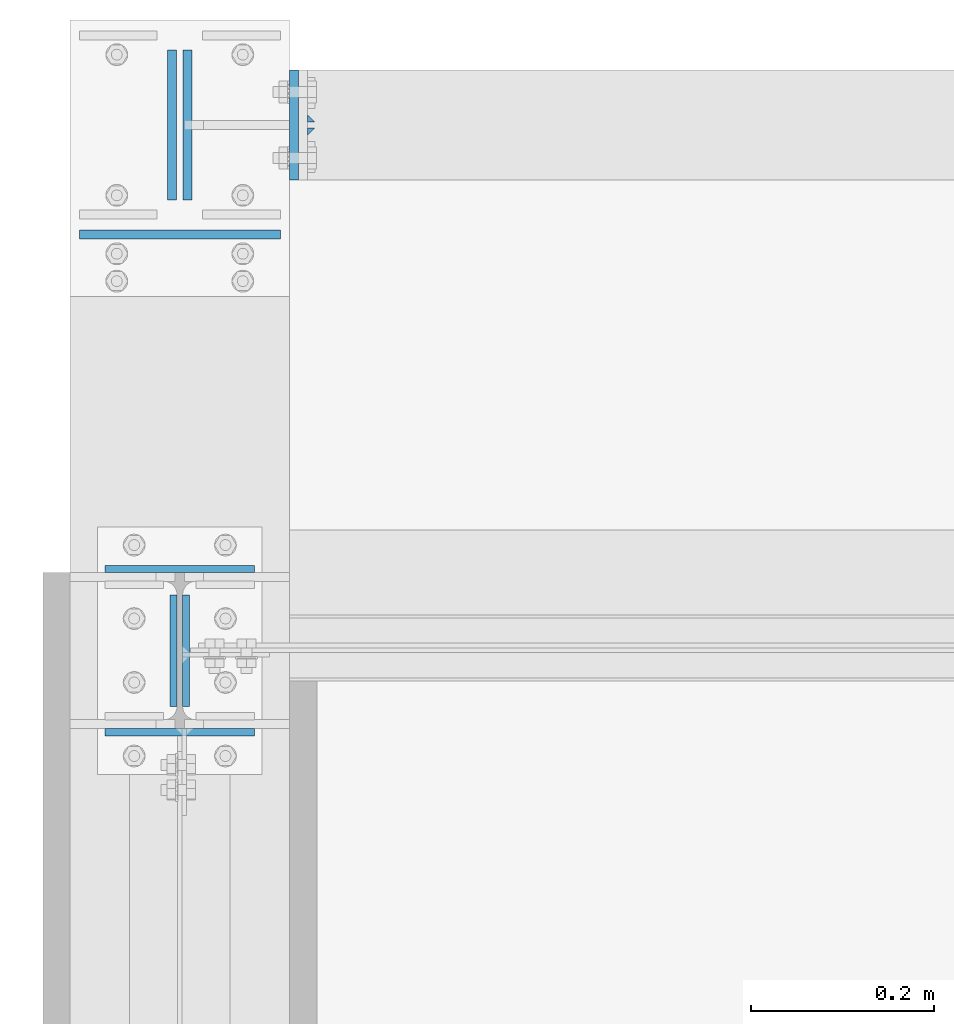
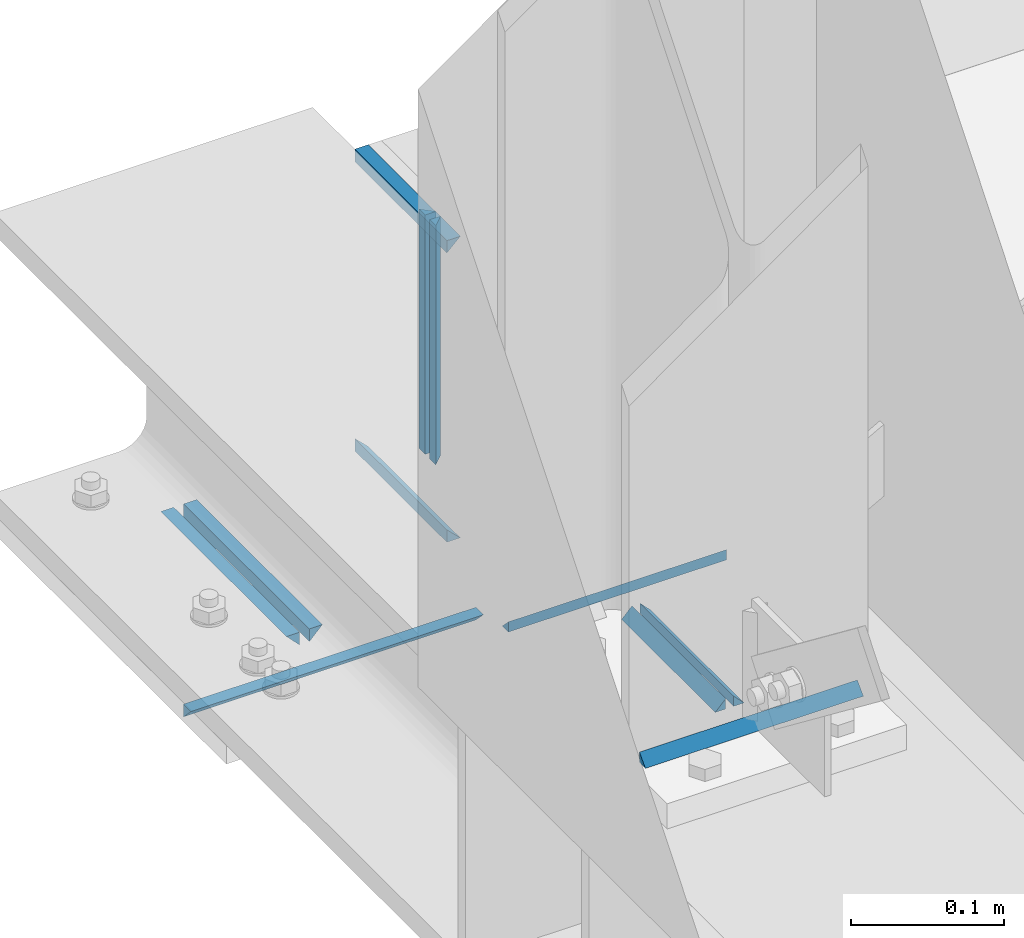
# One storey, part 16 of 66: 20 fasteners.
"""IFC4 building model written with IfcOpenShell, lengths in metres."""

from ifc_helpers import new_model, si_unit, frame, origin_with_axes, place, context, project, spatial, polyline, outline, extrude, type_object, element, save


model = new_model("IFC4")

# Units and contexts
model_context = context("Model", 3, precision=1e-05, world=origin_with_axes())
ifc_project = project(units=[si_unit("LENGTHUNIT", "METRE"), si_unit("AREAUNIT", "SQUARE_METRE"), si_unit("VOLUMEUNIT", "CUBIC_METRE"), si_unit("MASSUNIT", "GRAM", prefix="KILO"), si_unit("TIMEUNIT", "SECOND"), si_unit("PLANEANGLEUNIT", "RADIAN"), si_unit("SOLIDANGLEUNIT", "STERADIAN"), si_unit("THERMODYNAMICTEMPERATUREUNIT", "DEGREE_CELSIUS")], contexts=[model_context])

# Site, building, storey
placement_1 = place(None, origin_with_axes())
site = spatial("IfcSite", under=ifc_project, at=placement_1, Name="Italia", CompositionType="ELEMENT")
building = spatial("IfcBuilding", under=site, at=placement_1, Name="Uffici", CompositionType="ELEMENT")
storey_placement = place(None, frame((0.0, 0.0, 3.299999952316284), z_axis=(0.0, 0.0, 1.0), x_axis=(1.0, 0.0, 0.0)))
storey = spatial("IfcBuildingStorey", under=building, at=storey_placement, Name="Storey 1", CompositionType="ELEMENT", Elevation=3.299999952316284)

# Fasteners
fastener_type_1 = type_object("IfcFastenerType", Name="Collegamento 0106_0206", PredefinedType="WELD")
placement_2 = place(placement_1, origin_with_axes())
fastener_1_placement = place(placement_2, origin_with_axes())
element("IfcFastener", 1, at=fastener_1_placement, inside=storey, type_object=fastener_type_1, Name="Collegamento 0106_0206", context=model_context, shape_type="SweptSolid", body=[
    extrude(outline(polyline([(0.0, 0.0), (0.00792837, 0.00817347), (0.00792837, 0.0), (0.0, 0.0)])), frame((0.08205, 4.90788, 3.31995), z_axis=(-1.0, 0.0, 0.0), x_axis=(0.0, -1.0, 0.0)), (0.0, 0.0, 1.0), 0.1641),
])
fastener_type_2 = type_object("IfcFastenerType", Name="Collegamento 0106_0206", PredefinedType="WELD")
fastener_2_placement = place(placement_2, origin_with_axes())
element("IfcFastener", 2, at=fastener_2_placement, inside=storey, type_object=fastener_type_2, Name="Collegamento 0106_0206", context=model_context, shape_type="SweptSolid", body=[
    extrude(outline(polyline([(0.0, 0.0), (0.00792837, 0.00817347), (0.00792837, 0.0), (0.0, 0.0)])), frame((-0.08205, 4.72112, 3.31995), z_axis=(1.0, 0.0, 0.0), x_axis=(0.0, 1.0, 0.0)), (0.0, 0.0, 1.0), 0.1641),
])
fastener_type_3 = type_object("IfcFastenerType", Name="Collegamento 0106_0206", PredefinedType="WELD")
fastener_3_placement = place(placement_2, origin_with_axes())
element("IfcFastener", 3, at=fastener_3_placement, inside=storey, type_object=fastener_type_3, Name="Collegamento 0106_0206", context=model_context, shape_type="SweptSolid", body=[
    extrude(outline(polyline([(0.0, 0.0), (0.00792816, 0.00817347), (0.00792816, 0.0), (0.0, 0.0)])), frame((0.0108782, 4.75345, 3.31995), z_axis=(-1.5254976e-08, 1.0, 0.0), x_axis=(-1.0, -1.5254976e-08, 0.0)), (0.0, 0.0, 1.0), 0.122101),
])
fastener_type_4 = type_object("IfcFastenerType", Name="Collegamento 0106_0206", PredefinedType="WELD")
fastener_4_placement = place(placement_2, origin_with_axes())
element("IfcFastener", 4, at=fastener_4_placement, inside=storey, type_object=fastener_type_4, Name="Collegamento 0106_0206", context=model_context, shape_type="SweptSolid", body=[
    extrude(outline(polyline([(0.0, 0.0), (0.00792816, 0.00817347), (0.00792816, 0.0), (0.0, 0.0)])), frame((-0.0108782, 4.87555, 3.31995), z_axis=(1.5254976e-08, -1.0, 0.0), x_axis=(1.0, 1.5254976e-08, 0.0)), (0.0, 0.0, 1.0), 0.122101),
])
fastener_type_5 = type_object("IfcFastenerType", Name="Collegamento 0106_0206", PredefinedType="WELD")
fastener_5_placement = place(placement_2, origin_with_axes())
element("IfcFastener", 5, at=fastener_5_placement, inside=storey, type_object=fastener_type_5, Name="Collegamento 0106_0206", context=model_context, shape_type="SweptSolid", body=[
    extrude(outline(polyline([(0.0, 0.0), (0.00792837, 0.00817347), (0.00792837, 0.0), (0.0, 0.0)])), frame((0.08205, 4.90788, 3.31995), z_axis=(-1.0, 0.0, 0.0), x_axis=(0.0, -1.0, 0.0)), (0.0, 0.0, 1.0), 0.1641),
])
fastener_type_6 = type_object("IfcFastenerType", Name="Collegamento 0106_0206", PredefinedType="WELD")
fastener_6_placement = place(placement_2, origin_with_axes())
element("IfcFastener", 6, at=fastener_6_placement, inside=storey, type_object=fastener_type_6, Name="Collegamento 0106_0206", context=model_context, shape_type="SweptSolid", body=[
    extrude(outline(polyline([(0.0, 0.0), (0.00792837, 0.00817347), (0.00792837, 0.0), (0.0, 0.0)])), frame((-0.08205, 4.72112, 3.31995), z_axis=(1.0, 0.0, 0.0), x_axis=(0.0, 1.0, 0.0)), (0.0, 0.0, 1.0), 0.1641),
])
fastener_type_7 = type_object("IfcFastenerType", Name="Collegamento 0106_0206", PredefinedType="WELD")
fastener_7_placement = place(placement_2, origin_with_axes())
element("IfcFastener", 7, at=fastener_7_placement, inside=storey, type_object=fastener_type_7, Name="Collegamento 0106_0206", context=model_context, shape_type="SweptSolid", body=[
    extrude(outline(polyline([(0.0, 0.0), (0.00792816, 0.00817347), (0.00792816, 0.0), (0.0, 0.0)])), frame((0.0108782, 4.75345, 3.31995), z_axis=(-1.5254976e-08, 1.0, 0.0), x_axis=(-1.0, -1.5254976e-08, 0.0)), (0.0, 0.0, 1.0), 0.122101),
])
fastener_type_8 = type_object("IfcFastenerType", Name="Collegamento 0106_0206", PredefinedType="WELD")
fastener_8_placement = place(placement_2, origin_with_axes())
element("IfcFastener", 8, at=fastener_8_placement, inside=storey, type_object=fastener_type_8, Name="Collegamento 0106_0206", context=model_context, shape_type="SweptSolid", body=[
    extrude(outline(polyline([(0.0, 0.0), (0.00792816, 0.00817347), (0.00792816, 0.0), (0.0, 0.0)])), frame((-0.0108782, 4.87555, 3.31995), z_axis=(1.5254976e-08, -1.0, 0.0), x_axis=(1.0, 1.5254976e-08, 0.0)), (0.0, 0.0, 1.0), 0.122101),
])
fastener_type_9 = type_object("IfcFastenerType", Name="Collegamenti 0111_0011 0112_0012 0113_0013 0114_0014 0115_0015", PredefinedType="WELD")
fastener_9_placement = place(placement_2, origin_with_axes())
element("IfcFastener", 9, at=fastener_9_placement, inside=storey, type_object=fastener_type_9, Name="Collegamenti 0111_0011 0112_0012 0113_0013 0114_0014 0115_0015", context=model_context, shape_type="SweptSolid", body=[
    extrude(outline(polyline([(0.0, 0.0), (-0.00986814, -0.0101733), (-0.00986814, 0.0), (0.0, 0.0)])), frame((0.11005, 5.26518, 3.04505), z_axis=(-1.0, 0.0, 0.0), x_axis=(0.0, -1.0, 0.0)), (0.0, 0.0, 1.0), 0.2201),
])
fastener_type_10 = type_object("IfcFastenerType", Name="Collegamenti 0111_0011 0112_0012 0113_0013 0114_0014 0115_0015", PredefinedType="WELD")
fastener_10_placement = place(placement_2, origin_with_axes())
element("IfcFastener", 10, at=fastener_10_placement, inside=storey, type_object=fastener_type_10, Name="Collegamenti 0111_0011 0112_0012 0113_0013 0114_0014 0115_0015", context=model_context, shape_type="SweptSolid", body=[
    extrude(outline(polyline([(0.0, 0.0), (-0.00986816, -0.0101733), (-0.00986816, 0.0), (0.0, 0.0)])), frame((0.0135682, 5.47205, 3.04505), z_axis=(-5.675313e-09, -1.0, 0.0), x_axis=(1.0, -5.675313e-09, 0.0)), (0.0, 0.0, 1.0), 0.164101),
])
fastener_type_11 = type_object("IfcFastenerType", Name="Collegamenti 0111_0011 0112_0012 0113_0013 0114_0014 0115_0015", PredefinedType="WELD")
fastener_11_placement = place(placement_2, origin_with_axes())
element("IfcFastener", 11, at=fastener_11_placement, inside=storey, type_object=fastener_type_11, Name="Collegamenti 0111_0011 0112_0012 0113_0013 0114_0014 0115_0015", context=model_context, shape_type="SweptSolid", body=[
    extrude(outline(polyline([(0.0, 0.0), (-0.00986816, -0.0101733), (-0.00986816, 0.0), (0.0, 0.0)])), frame((-0.0135682, 5.30795, 3.04505), z_axis=(5.675313e-09, 1.0, 0.0), x_axis=(-1.0, 5.675313e-09, 0.0)), (0.0, 0.0, 1.0), 0.164101),
])
fastener_type_12 = type_object("IfcFastenerType", Name="Collegamenti 0111_0011 0112_0012 0113_0013 0114_0014 0115_0015", PredefinedType="WELD")
fastener_12_placement = place(placement_2, origin_with_axes())
element("IfcFastener", 12, at=fastener_12_placement, inside=storey, type_object=fastener_type_12, Name="Collegamenti 0111_0011 0112_0012 0113_0013 0114_0014 0115_0015", context=model_context, shape_type="SweptSolid", body=[
    extrude(outline(polyline([(0.0, 0.0), (-0.00986814, -0.0101733), (-0.00986814, 0.0), (0.0, 0.0)])), frame((0.11005, 5.26518, 3.04505), z_axis=(-1.0, 0.0, 0.0), x_axis=(0.0, -1.0, 0.0)), (0.0, 0.0, 1.0), 0.2201),
])
fastener_type_13 = type_object("IfcFastenerType", Name="Collegamenti 0111_0011 0112_0012 0113_0013 0114_0014 0115_0015", PredefinedType="WELD")
fastener_13_placement = place(placement_2, origin_with_axes())
element("IfcFastener", 13, at=fastener_13_placement, inside=storey, type_object=fastener_type_13, Name="Collegamenti 0111_0011 0112_0012 0113_0013 0114_0014 0115_0015", context=model_context, shape_type="SweptSolid", body=[
    extrude(outline(polyline([(0.0, 0.0), (-0.00986816, -0.0101733), (-0.00986816, 0.0), (0.0, 0.0)])), frame((0.0135682, 5.47205, 3.04505), z_axis=(-5.675313e-09, -1.0, 0.0), x_axis=(1.0, -5.675313e-09, 0.0)), (0.0, 0.0, 1.0), 0.164101),
])
fastener_type_14 = type_object("IfcFastenerType", Name="Collegamenti 0111_0011 0112_0012 0113_0013 0114_0014 0115_0015", PredefinedType="WELD")
fastener_14_placement = place(placement_2, origin_with_axes())
element("IfcFastener", 14, at=fastener_14_placement, inside=storey, type_object=fastener_type_14, Name="Collegamenti 0111_0011 0112_0012 0113_0013 0114_0014 0115_0015", context=model_context, shape_type="SweptSolid", body=[
    extrude(outline(polyline([(0.0, 0.0), (-0.00986816, -0.0101733), (-0.00986816, 0.0), (0.0, 0.0)])), frame((-0.0135682, 5.30795, 3.04505), z_axis=(5.675313e-09, 1.0, 0.0), x_axis=(-1.0, 5.675313e-09, 0.0)), (0.0, 0.0, 1.0), 0.164101),
])
fastener_type_15 = type_object("IfcFastenerType", Name="Collegamento 0111_0112", PredefinedType="WELD")
fastener_15_placement = place(placement_2, origin_with_axes())
element("IfcFastener", 15, at=fastener_15_placement, inside=storey, type_object=fastener_type_15, Name="Collegamento 0111_0112", context=model_context, shape_type="SweptSolid", body=[
    extrude(outline(polyline([(0.0, 0.0), (0.00792837, 0.00817336), (0.00792837, 0.0), (0.0, 0.0)])), frame((0.13995, 5.37902, 3.27525), z_axis=(0.0, 0.0, -1.0), x_axis=(0.0, 1.0, 0.0)), (0.0, 0.0, 1.0), 0.1905),
])
fastener_type_16 = type_object("IfcFastenerType", Name="Collegamento 0111_0112", PredefinedType="WELD")
fastener_16_placement = place(placement_2, origin_with_axes())
element("IfcFastener", 16, at=fastener_16_placement, inside=storey, type_object=fastener_type_16, Name="Collegamento 0111_0112", context=model_context, shape_type="SweptSolid", body=[
    extrude(outline(polyline([(0.0, 0.0), (-0.00792837, -0.00817336), (-0.00792837, 0.0), (0.0, 0.0)])), frame((0.13995, 5.40098, 3.08475), z_axis=(0.0, 0.0, 1.0), x_axis=(0.0, 1.0, 0.0)), (0.0, 0.0, 1.0), 0.1905),
])
fastener_type_17 = type_object("IfcFastenerType", Name="Collegamento 0111_0112", PredefinedType="WELD")
fastener_17_placement = place(placement_2, origin_with_axes())
element("IfcFastener", 17, at=fastener_17_placement, inside=storey, type_object=fastener_type_17, Name="Collegamento 0111_0112", context=model_context, shape_type="SweptSolid", body=[
    extrude(outline(polyline([(0.0, 0.0), (0.00792837, 0.00817336), (0.00792837, 0.0), (0.0, 0.0)])), frame((0.13995, 5.37902, 3.27525), z_axis=(0.0, 0.0, -1.0), x_axis=(0.0, 1.0, 0.0)), (0.0, 0.0, 1.0), 0.1905),
])
fastener_type_18 = type_object("IfcFastenerType", Name="Collegamento 0111_0112", PredefinedType="WELD")
fastener_18_placement = place(placement_2, origin_with_axes())
element("IfcFastener", 18, at=fastener_18_placement, inside=storey, type_object=fastener_type_18, Name="Collegamento 0111_0112", context=model_context, shape_type="SweptSolid", body=[
    extrude(outline(polyline([(0.0, 0.0), (-0.00792837, -0.00817336), (-0.00792837, 0.0), (0.0, 0.0)])), frame((0.13995, 5.40098, 3.08475), z_axis=(0.0, 0.0, 1.0), x_axis=(0.0, 1.0, 0.0)), (0.0, 0.0, 1.0), 0.1905),
])
fastener_type_19 = type_object("IfcFastenerType", Name="Collegamento 0111_0112", PredefinedType="WELD")
fastener_19_placement = place(placement_2, origin_with_axes())
element("IfcFastener", 19, at=fastener_19_placement, inside=storey, type_object=fastener_type_19, Name="Collegamento 0111_0112", context=model_context, shape_type="SweptSolid", body=[
    extrude(outline(polyline([(0.0, 0.0), (0.0101734, -0.00986814), (0.0, -0.00986814), (0.0, 0.0)])), frame((0.11995, 5.45005, 3.06982), z_axis=(0.0, -1.0, 0.0), x_axis=(1.0, 0.0, 0.0)), (0.0, 0.0, 1.0), 0.1201),
])
fastener_type_20 = type_object("IfcFastenerType", Name="Collegamento 0111_0112", PredefinedType="WELD")
fastener_20_placement = place(placement_2, origin_with_axes())
element("IfcFastener", 20, at=fastener_20_placement, inside=storey, type_object=fastener_type_20, Name="Collegamento 0111_0112", context=model_context, shape_type="SweptSolid", body=[
    extrude(outline(polyline([(0.0, 0.0), (-0.0101734, 0.00986814), (0.0, 0.00986814), (0.0, 0.0)])), frame((0.11995, 5.32995, 3.29018), z_axis=(0.0, 1.0, 0.0), x_axis=(-1.0, 0.0, 0.0)), (0.0, 0.0, 1.0), 0.1201),
])

save(model, "model.ifc")
